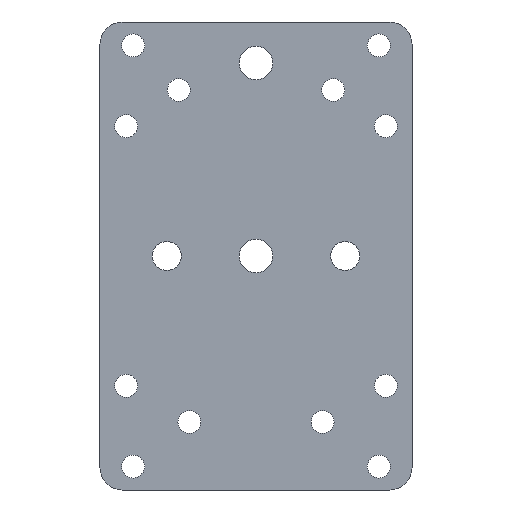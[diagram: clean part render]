
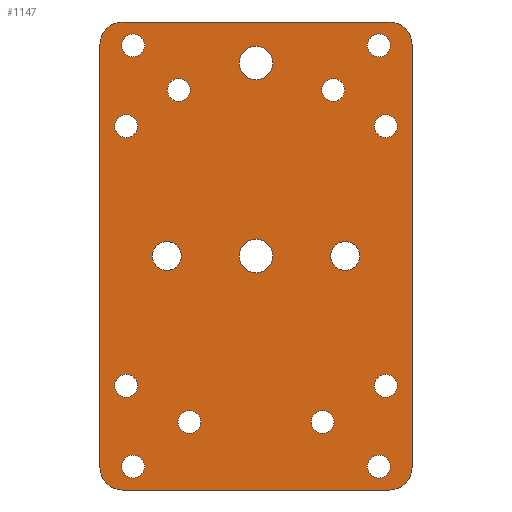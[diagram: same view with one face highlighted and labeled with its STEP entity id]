
A CAD part, front view. The second image highlights one B-rep face of the part: STEP entity #1147.
In plain terms, the highlighted planar face has unit normal (0, -1, 0).
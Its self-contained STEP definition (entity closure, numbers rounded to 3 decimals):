
#74=CIRCLE('',#1227,2.067);
#75=CIRCLE('',#1228,2.067);
#76=CIRCLE('',#1229,2.381);
#77=CIRCLE('',#1230,2.381);
#78=CIRCLE('',#1231,1.632);
#79=CIRCLE('',#1232,1.632);
#80=CIRCLE('',#1233,1.632);
#81=CIRCLE('',#1234,1.632);
#82=CIRCLE('',#1235,1.632);
#83=CIRCLE('',#1236,1.632);
#84=CIRCLE('',#1237,1.632);
#85=CIRCLE('',#1238,1.632);
#86=CIRCLE('',#1239,1.632);
#87=CIRCLE('',#1240,1.632);
#88=CIRCLE('',#1241,1.632);
#89=CIRCLE('',#1242,1.632);
#90=CIRCLE('',#1243,3.175);
#91=CIRCLE('',#1244,3.175);
#92=CIRCLE('',#1245,3.175);
#93=CIRCLE('',#1246,3.175);
#162=ORIENTED_EDGE('',*,*,#326,.F.);
#163=ORIENTED_EDGE('',*,*,#327,.F.);
#164=ORIENTED_EDGE('',*,*,#328,.F.);
#165=ORIENTED_EDGE('',*,*,#329,.F.);
#166=ORIENTED_EDGE('',*,*,#330,.F.);
#167=ORIENTED_EDGE('',*,*,#331,.F.);
#168=ORIENTED_EDGE('',*,*,#332,.F.);
#169=ORIENTED_EDGE('',*,*,#333,.F.);
#170=ORIENTED_EDGE('',*,*,#334,.F.);
#171=ORIENTED_EDGE('',*,*,#335,.F.);
#172=ORIENTED_EDGE('',*,*,#336,.F.);
#173=ORIENTED_EDGE('',*,*,#337,.F.);
#174=ORIENTED_EDGE('',*,*,#338,.F.);
#175=ORIENTED_EDGE('',*,*,#339,.F.);
#176=ORIENTED_EDGE('',*,*,#340,.F.);
#177=ORIENTED_EDGE('',*,*,#341,.F.);
#178=ORIENTED_EDGE('',*,*,#292,.T.);
#179=ORIENTED_EDGE('',*,*,#342,.T.);
#180=ORIENTED_EDGE('',*,*,#294,.T.);
#181=ORIENTED_EDGE('',*,*,#343,.T.);
#182=ORIENTED_EDGE('',*,*,#300,.T.);
#183=ORIENTED_EDGE('',*,*,#344,.T.);
#184=ORIENTED_EDGE('',*,*,#304,.T.);
#185=ORIENTED_EDGE('',*,*,#345,.T.);
#292=EDGE_CURVE('',#377,#376,#452,.T.);
#294=EDGE_CURVE('',#378,#379,#454,.T.);
#300=EDGE_CURVE('',#385,#384,#460,.T.);
#304=EDGE_CURVE('',#389,#388,#464,.T.);
#326=EDGE_CURVE('',#406,#406,#74,.T.);
#327=EDGE_CURVE('',#407,#407,#75,.T.);
#328=EDGE_CURVE('',#408,#408,#76,.T.);
#329=EDGE_CURVE('',#409,#409,#77,.T.);
#330=EDGE_CURVE('',#410,#410,#78,.T.);
#331=EDGE_CURVE('',#411,#411,#79,.T.);
#332=EDGE_CURVE('',#412,#412,#80,.T.);
#333=EDGE_CURVE('',#413,#413,#81,.T.);
#334=EDGE_CURVE('',#414,#414,#82,.T.);
#335=EDGE_CURVE('',#415,#415,#83,.T.);
#336=EDGE_CURVE('',#416,#416,#84,.T.);
#337=EDGE_CURVE('',#417,#417,#85,.T.);
#338=EDGE_CURVE('',#418,#418,#86,.T.);
#339=EDGE_CURVE('',#419,#419,#87,.T.);
#340=EDGE_CURVE('',#420,#420,#88,.T.);
#341=EDGE_CURVE('',#421,#421,#89,.T.);
#342=EDGE_CURVE('',#376,#378,#90,.T.);
#343=EDGE_CURVE('',#379,#385,#91,.T.);
#344=EDGE_CURVE('',#384,#389,#92,.T.);
#345=EDGE_CURVE('',#388,#377,#93,.T.);
#376=VERTEX_POINT('',#1591);
#377=VERTEX_POINT('',#1593);
#378=VERTEX_POINT('',#1597);
#379=VERTEX_POINT('',#1598);
#384=VERTEX_POINT('',#1609);
#385=VERTEX_POINT('',#1611);
#388=VERTEX_POINT('',#1618);
#389=VERTEX_POINT('',#1620);
#406=VERTEX_POINT('',#1661);
#407=VERTEX_POINT('',#1663);
#408=VERTEX_POINT('',#1665);
#409=VERTEX_POINT('',#1667);
#410=VERTEX_POINT('',#1669);
#411=VERTEX_POINT('',#1671);
#412=VERTEX_POINT('',#1673);
#413=VERTEX_POINT('',#1675);
#414=VERTEX_POINT('',#1677);
#415=VERTEX_POINT('',#1679);
#416=VERTEX_POINT('',#1681);
#417=VERTEX_POINT('',#1683);
#418=VERTEX_POINT('',#1685);
#419=VERTEX_POINT('',#1687);
#420=VERTEX_POINT('',#1689);
#421=VERTEX_POINT('',#1691);
#452=LINE('',#1592,#468);
#454=LINE('',#1596,#470);
#460=LINE('',#1610,#476);
#464=LINE('',#1619,#480);
#468=VECTOR('',#1329,1000.);
#470=VECTOR('',#1333,1000.);
#476=VECTOR('',#1341,1000.);
#480=VECTOR('',#1347,1000.);
#503=EDGE_LOOP('',(#162));
#504=EDGE_LOOP('',(#163));
#505=EDGE_LOOP('',(#164));
#506=EDGE_LOOP('',(#165));
#507=EDGE_LOOP('',(#166));
#508=EDGE_LOOP('',(#167));
#509=EDGE_LOOP('',(#168));
#510=EDGE_LOOP('',(#169));
#511=EDGE_LOOP('',(#170));
#512=EDGE_LOOP('',(#171));
#513=EDGE_LOOP('',(#172));
#514=EDGE_LOOP('',(#173));
#515=EDGE_LOOP('',(#174));
#516=EDGE_LOOP('',(#175));
#517=EDGE_LOOP('',(#176));
#518=EDGE_LOOP('',(#177));
#519=EDGE_LOOP('',(#178,#179,#180,#181,#182,#183,#184,#185));
#633=FACE_BOUND('',#503,.T.);
#634=FACE_BOUND('',#504,.T.);
#635=FACE_BOUND('',#505,.T.);
#636=FACE_BOUND('',#506,.T.);
#637=FACE_BOUND('',#507,.T.);
#638=FACE_BOUND('',#508,.T.);
#639=FACE_BOUND('',#509,.T.);
#640=FACE_BOUND('',#510,.T.);
#641=FACE_BOUND('',#511,.T.);
#642=FACE_BOUND('',#512,.T.);
#643=FACE_BOUND('',#513,.T.);
#644=FACE_BOUND('',#514,.T.);
#645=FACE_BOUND('',#515,.T.);
#646=FACE_BOUND('',#516,.T.);
#647=FACE_BOUND('',#517,.T.);
#648=FACE_BOUND('',#518,.T.);
#649=FACE_BOUND('',#519,.T.);
#747=PLANE('',#1226);
#1147=ADVANCED_FACE('',(#633,#634,#635,#636,#637,#638,#639,#640,#641,#642,
#643,#644,#645,#646,#647,#648,#649),#747,.T.);
#1226=AXIS2_PLACEMENT_3D('',#1659,#1391,#1392);
#1227=AXIS2_PLACEMENT_3D('',#1660,#1393,#1394);
#1228=AXIS2_PLACEMENT_3D('',#1662,#1395,#1396);
#1229=AXIS2_PLACEMENT_3D('',#1664,#1397,#1398);
#1230=AXIS2_PLACEMENT_3D('',#1666,#1399,#1400);
#1231=AXIS2_PLACEMENT_3D('',#1668,#1401,#1402);
#1232=AXIS2_PLACEMENT_3D('',#1670,#1403,#1404);
#1233=AXIS2_PLACEMENT_3D('',#1672,#1405,#1406);
#1234=AXIS2_PLACEMENT_3D('',#1674,#1407,#1408);
#1235=AXIS2_PLACEMENT_3D('',#1676,#1409,#1410);
#1236=AXIS2_PLACEMENT_3D('',#1678,#1411,#1412);
#1237=AXIS2_PLACEMENT_3D('',#1680,#1413,#1414);
#1238=AXIS2_PLACEMENT_3D('',#1682,#1415,#1416);
#1239=AXIS2_PLACEMENT_3D('',#1684,#1417,#1418);
#1240=AXIS2_PLACEMENT_3D('',#1686,#1419,#1420);
#1241=AXIS2_PLACEMENT_3D('',#1688,#1421,#1422);
#1242=AXIS2_PLACEMENT_3D('',#1690,#1423,#1424);
#1243=AXIS2_PLACEMENT_3D('',#1692,#1425,#1426);
#1244=AXIS2_PLACEMENT_3D('',#1693,#1427,#1428);
#1245=AXIS2_PLACEMENT_3D('',#1694,#1429,#1430);
#1246=AXIS2_PLACEMENT_3D('',#1695,#1431,#1432);
#1329=DIRECTION('',(0.,0.,1.));
#1333=DIRECTION('',(-1.,0.,0.));
#1341=DIRECTION('',(0.,0.,-1.));
#1347=DIRECTION('',(1.,0.,0.));
#1391=DIRECTION('',(0.,-1.,0.));
#1392=DIRECTION('',(0.,0.,-1.));
#1393=DIRECTION('',(0.,-1.,0.));
#1394=DIRECTION('',(0.,0.,-1.));
#1395=DIRECTION('',(0.,-1.,0.));
#1396=DIRECTION('',(0.,0.,-1.));
#1397=DIRECTION('',(0.,-1.,0.));
#1398=DIRECTION('',(0.,0.,-1.));
#1399=DIRECTION('',(0.,-1.,0.));
#1400=DIRECTION('',(0.,0.,-1.));
#1401=DIRECTION('',(0.,-1.,0.));
#1402=DIRECTION('',(0.,0.,-1.));
#1403=DIRECTION('',(0.,-1.,0.));
#1404=DIRECTION('',(0.,0.,-1.));
#1405=DIRECTION('',(0.,-1.,0.));
#1406=DIRECTION('',(0.,0.,-1.));
#1407=DIRECTION('',(0.,-1.,0.));
#1408=DIRECTION('',(0.,0.,-1.));
#1409=DIRECTION('',(0.,-1.,0.));
#1410=DIRECTION('',(0.,0.,-1.));
#1411=DIRECTION('',(0.,-1.,0.));
#1412=DIRECTION('',(0.,0.,-1.));
#1413=DIRECTION('',(0.,-1.,0.));
#1414=DIRECTION('',(0.,0.,-1.));
#1415=DIRECTION('',(0.,-1.,0.));
#1416=DIRECTION('',(0.,0.,-1.));
#1417=DIRECTION('',(0.,-1.,0.));
#1418=DIRECTION('',(0.,0.,-1.));
#1419=DIRECTION('',(0.,-1.,0.));
#1420=DIRECTION('',(0.,0.,-1.));
#1421=DIRECTION('',(0.,-1.,0.));
#1422=DIRECTION('',(0.,0.,-1.));
#1423=DIRECTION('',(0.,-1.,0.));
#1424=DIRECTION('',(0.,0.,-1.));
#1425=DIRECTION('',(0.,-1.,0.));
#1426=DIRECTION('',(0.,0.,-1.));
#1427=DIRECTION('',(0.,-1.,0.));
#1428=DIRECTION('',(0.,0.,-1.));
#1429=DIRECTION('',(0.,-1.,0.));
#1430=DIRECTION('',(0.,0.,-1.));
#1431=DIRECTION('',(0.,-1.,0.));
#1432=DIRECTION('',(0.,0.,-1.));
#1591=CARTESIAN_POINT('',(22.225,0.,30.163));
#1592=CARTESIAN_POINT('',(22.225,0.,-33.338));
#1593=CARTESIAN_POINT('',(22.225,0.,-30.163));
#1596=CARTESIAN_POINT('',(22.225,0.,33.338));
#1597=CARTESIAN_POINT('',(19.05,0.,33.338));
#1598=CARTESIAN_POINT('',(-19.05,0.,33.338));
#1609=CARTESIAN_POINT('',(-22.225,0.,-30.163));
#1610=CARTESIAN_POINT('',(-22.225,0.,33.338));
#1611=CARTESIAN_POINT('',(-22.225,0.,30.163));
#1618=CARTESIAN_POINT('',(19.05,0.,-33.338));
#1619=CARTESIAN_POINT('',(-22.225,0.,-33.338));
#1620=CARTESIAN_POINT('',(-19.05,0.,-33.338));
#1659=CARTESIAN_POINT('',(22.225,0.,33.338));
#1660=CARTESIAN_POINT('',(-12.7,0.,0.));
#1661=CARTESIAN_POINT('',(-12.7,0.,-2.067));
#1662=CARTESIAN_POINT('',(12.7,0.,0.));
#1663=CARTESIAN_POINT('',(12.7,0.,-2.067));
#1664=CARTESIAN_POINT('',(0.,0.,0.));
#1665=CARTESIAN_POINT('',(0.,0.,-2.381));
#1666=CARTESIAN_POINT('',(0.,0.,27.5));
#1667=CARTESIAN_POINT('',(0.,0.,25.119));
#1668=CARTESIAN_POINT('',(-17.5,0.,-30.));
#1669=CARTESIAN_POINT('',(-17.5,0.,-31.632));
#1670=CARTESIAN_POINT('',(17.5,0.,-30.));
#1671=CARTESIAN_POINT('',(17.5,0.,-31.632));
#1672=CARTESIAN_POINT('',(17.5,0.,30.));
#1673=CARTESIAN_POINT('',(17.5,0.,28.368));
#1674=CARTESIAN_POINT('',(-17.5,0.,30.));
#1675=CARTESIAN_POINT('',(-17.5,0.,28.368));
#1676=CARTESIAN_POINT('',(9.5,0.,-23.65));
#1677=CARTESIAN_POINT('',(9.5,0.,-25.282));
#1678=CARTESIAN_POINT('',(-9.5,0.,-23.65));
#1679=CARTESIAN_POINT('',(-9.5,0.,-25.282));
#1680=CARTESIAN_POINT('',(11.,0.,23.65));
#1681=CARTESIAN_POINT('',(11.,0.,22.018));
#1682=CARTESIAN_POINT('',(-11.,0.,23.65));
#1683=CARTESIAN_POINT('',(-11.,0.,22.018));
#1684=CARTESIAN_POINT('',(18.5,0.,18.5));
#1685=CARTESIAN_POINT('',(18.5,0.,16.868));
#1686=CARTESIAN_POINT('',(18.5,0.,-18.5));
#1687=CARTESIAN_POINT('',(18.5,0.,-20.132));
#1688=CARTESIAN_POINT('',(-18.5,0.,-18.5));
#1689=CARTESIAN_POINT('',(-18.5,0.,-20.132));
#1690=CARTESIAN_POINT('',(-18.5,0.,18.5));
#1691=CARTESIAN_POINT('',(-18.5,0.,16.868));
#1692=CARTESIAN_POINT('',(19.05,0.,30.163));
#1693=CARTESIAN_POINT('',(-19.05,0.,30.163));
#1694=CARTESIAN_POINT('',(-19.05,0.,-30.163));
#1695=CARTESIAN_POINT('',(19.05,0.,-30.163));
